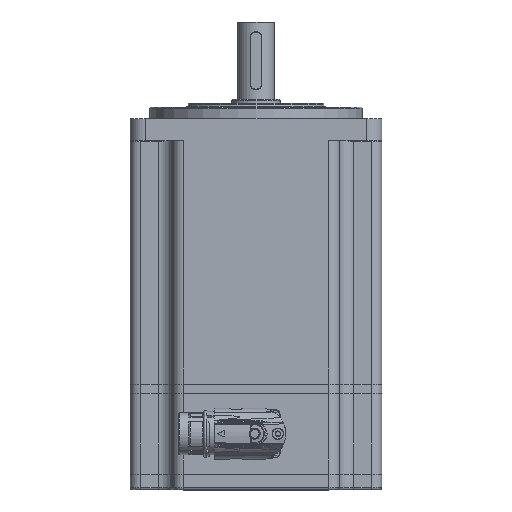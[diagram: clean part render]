
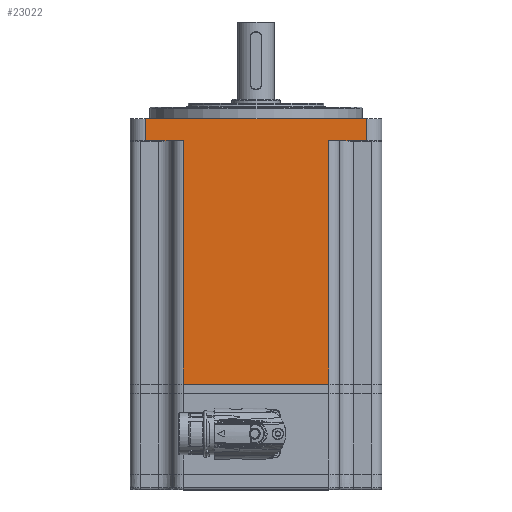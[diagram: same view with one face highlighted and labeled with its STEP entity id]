
A CAD part, top view. The second image highlights one B-rep face of the part: STEP entity #23022.
In plain terms, the highlighted planar face has unit normal (0, 0, 1).
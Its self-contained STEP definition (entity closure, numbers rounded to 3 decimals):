
#1064=LINE('',#43136,#2688);
#1106=LINE('',#44110,#2730);
#1111=LINE('',#44137,#2735);
#1130=LINE('',#44219,#2754);
#1131=LINE('',#44220,#2755);
#1132=LINE('',#44222,#2756);
#1133=LINE('',#44224,#2757);
#1134=LINE('',#44225,#2758);
#2688=VECTOR('',#36860,1000.);
#2730=VECTOR('',#37336,1000.);
#2735=VECTOR('',#37359,1000.);
#2754=VECTOR('',#37446,1000.);
#2755=VECTOR('',#37447,1000.);
#2756=VECTOR('',#37448,1000.);
#2757=VECTOR('',#37449,1000.);
#2758=VECTOR('',#37450,1000.);
#4574=PLANE('',#34325);
#6568=ORIENTED_EDGE('',*,*,#12469,.F.);
#6569=ORIENTED_EDGE('',*,*,#12766,.T.);
#6570=ORIENTED_EDGE('',*,*,#12728,.F.);
#6571=ORIENTED_EDGE('',*,*,#12767,.T.);
#6572=ORIENTED_EDGE('',*,*,#12768,.F.);
#6573=ORIENTED_EDGE('',*,*,#12769,.T.);
#6574=ORIENTED_EDGE('',*,*,#12716,.F.);
#6575=ORIENTED_EDGE('',*,*,#12770,.T.);
#12469=EDGE_CURVE('',#15756,#15757,#1064,.T.);
#12716=EDGE_CURVE('',#15913,#15914,#1106,.T.);
#12728=EDGE_CURVE('',#15925,#15926,#1111,.T.);
#12766=EDGE_CURVE('',#15756,#15926,#1130,.T.);
#12767=EDGE_CURVE('',#15925,#15955,#1131,.T.);
#12768=EDGE_CURVE('',#15956,#15955,#1132,.T.);
#12769=EDGE_CURVE('',#15956,#15914,#1133,.F.);
#12770=EDGE_CURVE('',#15913,#15757,#1134,.T.);
#15756=VERTEX_POINT('',#43137);
#15757=VERTEX_POINT('',#43138);
#15913=VERTEX_POINT('',#44111);
#15914=VERTEX_POINT('',#44112);
#15925=VERTEX_POINT('',#44136);
#15926=VERTEX_POINT('',#44138);
#15955=VERTEX_POINT('',#44221);
#15956=VERTEX_POINT('',#44223);
#19255=EDGE_LOOP('',(#6568,#6569,#6570,#6571,#6572,#6573,#6574,#6575));
#21164=FACE_BOUND('',#19255,.T.);
#23022=ADVANCED_FACE('',(#21164),#4574,.T.);
#34325=AXIS2_PLACEMENT_3D('',#44218,#37444,#37445);
#36860=DIRECTION('',(1.,0.,0.));
#37336=DIRECTION('',(1.,0.,0.));
#37359=DIRECTION('',(1.,0.,0.));
#37444=DIRECTION('',(0.,0.,1.));
#37445=DIRECTION('',(0.,-1.,0.));
#37446=DIRECTION('',(0.,-1.,0.));
#37447=DIRECTION('',(0.,-1.,0.));
#37448=DIRECTION('',(-1.,0.,0.));
#37449=DIRECTION('',(0.,-1.,0.));
#37450=DIRECTION('',(0.,1.,0.));
#43136=CARTESIAN_POINT('',(65.,138.2,65.));
#43137=CARTESIAN_POINT('',(-37.5,138.2,65.));
#43138=CARTESIAN_POINT('',(37.5,138.2,65.));
#44110=CARTESIAN_POINT('',(65.,12.7,65.));
#44111=CARTESIAN_POINT('',(37.5,12.7,65.));
#44112=CARTESIAN_POINT('',(57.,12.7,65.));
#44136=CARTESIAN_POINT('',(-57.,12.7,65.));
#44137=CARTESIAN_POINT('',(65.,12.7,65.));
#44138=CARTESIAN_POINT('',(-37.5,12.7,65.));
#44218=CARTESIAN_POINT('',(65.,317.858,65.));
#44219=CARTESIAN_POINT('',(-37.5,317.858,65.));
#44220=CARTESIAN_POINT('',(-57.,317.858,65.));
#44221=CARTESIAN_POINT('',(-57.,1.2,65.));
#44222=CARTESIAN_POINT('',(65.,1.2,65.));
#44223=CARTESIAN_POINT('',(57.,1.2,65.));
#44224=CARTESIAN_POINT('',(57.,317.858,65.));
#44225=CARTESIAN_POINT('',(37.5,317.858,65.));
